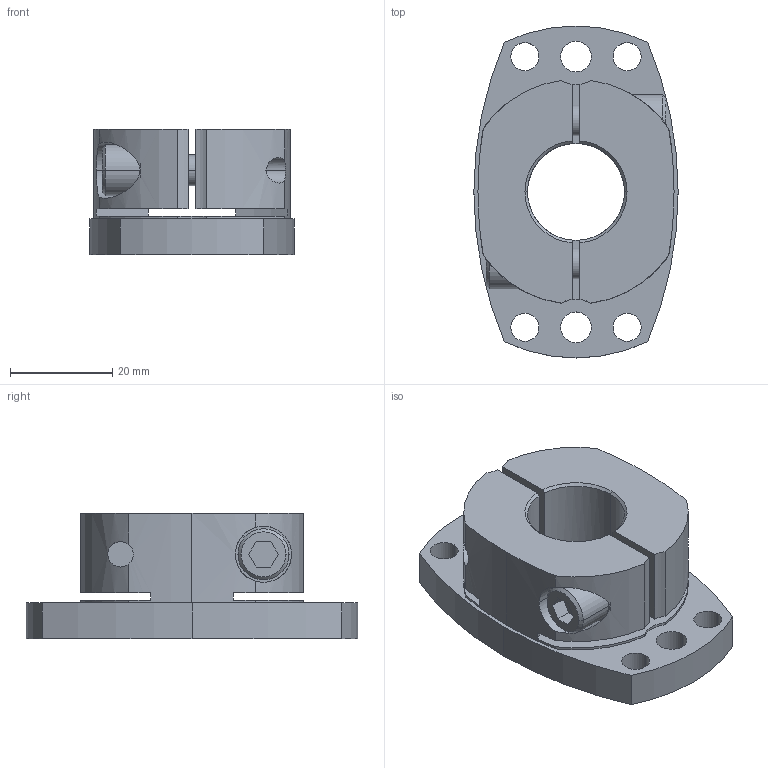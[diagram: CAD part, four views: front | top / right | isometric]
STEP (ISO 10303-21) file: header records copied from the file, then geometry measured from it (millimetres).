
FILE_DESCRIPTION((''),'2;1');
FILE_NAME('SHDB-65B-19.stp','2026-01-28T07:56:47',(''),(''),'AutoCAD STEP 2000i','AutoCAD 2000i',', , ');
FILE_SCHEMA(('CONFIG_CONTROL_DESIGN'));
Length unit declared in the file: millimetre
Products named in the file (2): SHDB-65B-16; 忣兜1
Assembly tree (1 placements, depth 2):
  SHDB-65B-16
    忣兜1
Bounding box: 40 x 65 x 24.5 mm (x, y, z)
Volume: 30350.3 mm3; surface area: 12537.4 mm2
Topology: 1 solids, 1 shells, 102 faces, 280 edges, 184 vertices
Faces by surface type: cylinder 58, plane 34, cone 10
Entity records: 3699 total; most frequent: CARTESIAN_POINT 872, DIRECTION 602, ORIENTED_EDGE 560, EDGE_CURVE 280, AXIS2_PLACEMENT_3D 238, VERTEX_POINT 184, CIRCLE 134, VECTOR 126
